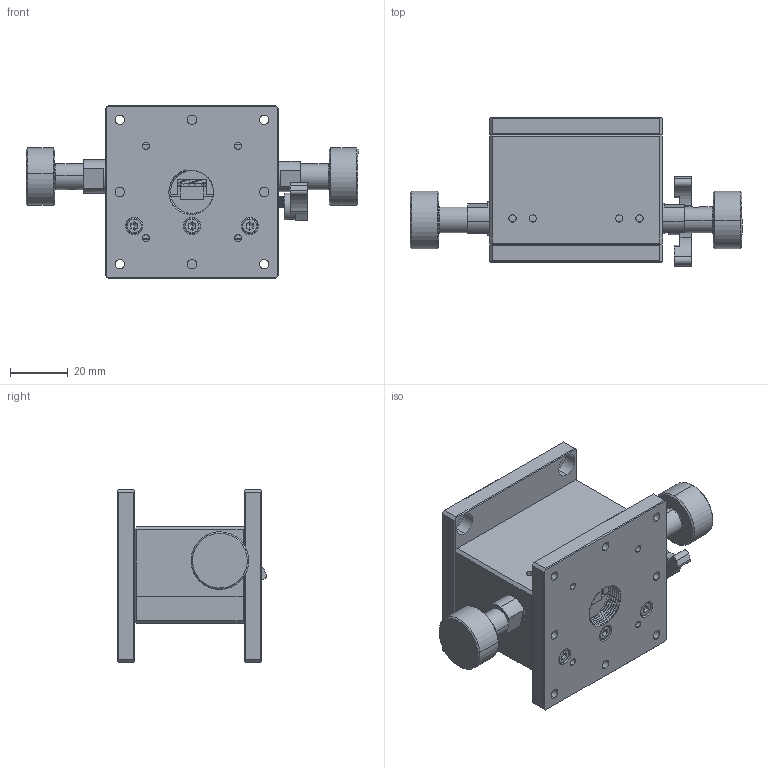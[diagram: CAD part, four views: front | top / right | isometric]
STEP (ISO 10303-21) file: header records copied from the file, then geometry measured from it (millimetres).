
FILE_DESCRIPTION (( 'STEP AP203' ), '1' );
FILE_NAME ('BFGZ60.STEP', '2024-02-26T07:54:59', ( 'China' ), ( 'Microsoft' ), 'SwSTEP 2.0', 'SolidWorks 2024', '' );
FILE_SCHEMA (( 'CONFIG_CONTROL_DESIGN' ));
Length unit declared in the file: millimetre
Products named in the file (1): BFGZ60
Bounding box: 115 x 51.64 x 60 mm (x, y, z)
Volume: 123003.2 mm3; surface area: 52049.2 mm2
Topology: 17 solids, 17 shells, 729 faces, 1918 edges, 1216 vertices
Faces by surface type: plane 334, cylinder 264, cone 76, bspline 39, torus 16
Entity records: 137747 total; most frequent: CARTESIAN_POINT 120210, ORIENTED_EDGE 3756, DIRECTION 3523, EDGE_CURVE 1878, AXIS2_PLACEMENT_3D 1236, VERTEX_POINT 1216, VECTOR 1051, LINE 1051
